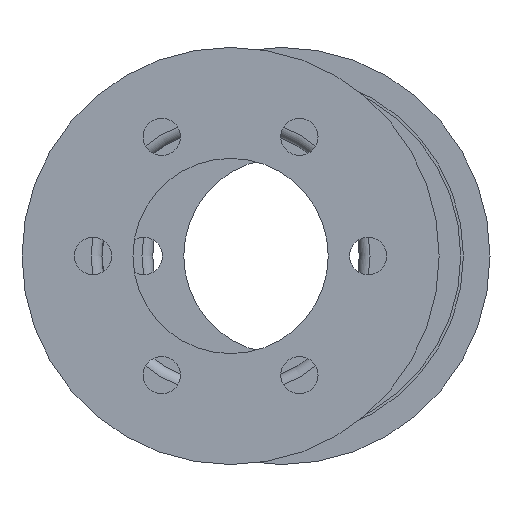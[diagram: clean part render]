
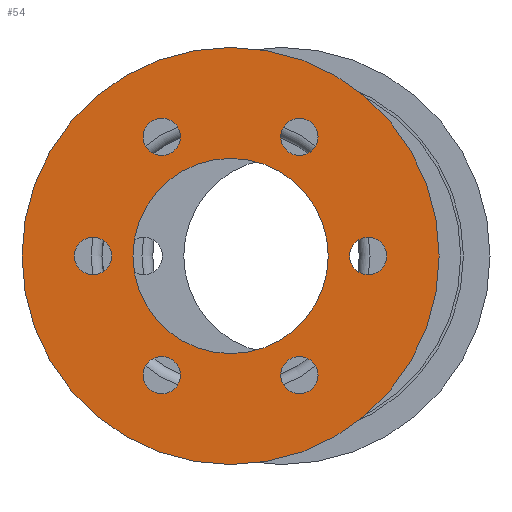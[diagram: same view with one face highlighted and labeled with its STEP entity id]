
A CAD part, left-side view. The second image highlights one B-rep face of the part: STEP entity #54.
In plain terms, the highlighted planar face has unit normal (-1, 0, 0).
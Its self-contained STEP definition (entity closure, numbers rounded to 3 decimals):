
#54 = ADVANCED_FACE( 'NONE', ( #101, #102, #103, #104, #105, #106, #107, #108 ), #109, .F. );
#101 = FACE_OUTER_BOUND( '', #171, .T. );
#102 = FACE_BOUND( '', #172, .T. );
#103 = FACE_BOUND( '', #173, .T. );
#104 = FACE_BOUND( '', #174, .T. );
#105 = FACE_BOUND( '', #175, .T. );
#106 = FACE_BOUND( '', #176, .T. );
#107 = FACE_BOUND( '', #177, .T. );
#108 = FACE_BOUND( '', #178, .T. );
#109 = PLANE( '', #179 );
#171 = EDGE_LOOP( '', ( #303 ) );
#172 = EDGE_LOOP( '', ( #304 ) );
#173 = EDGE_LOOP( '', ( #305 ) );
#174 = EDGE_LOOP( '', ( #306 ) );
#175 = EDGE_LOOP( '', ( #307 ) );
#176 = EDGE_LOOP( '', ( #308 ) );
#177 = EDGE_LOOP( '', ( #309 ) );
#178 = EDGE_LOOP( '', ( #310 ) );
#179 = AXIS2_PLACEMENT_3D( '', #311, #312, #313 );
#303 = ORIENTED_EDGE( '', *, *, #576, .T. );
#304 = ORIENTED_EDGE( '', *, *, #577, .F. );
#305 = ORIENTED_EDGE( '', *, *, #578, .F. );
#306 = ORIENTED_EDGE( '', *, *, #573, .F. );
#307 = ORIENTED_EDGE( '', *, *, #579, .F. );
#308 = ORIENTED_EDGE( '', *, *, #580, .F. );
#309 = ORIENTED_EDGE( '', *, *, #581, .F. );
#310 = ORIENTED_EDGE( '', *, *, #582, .F. );
#311 = CARTESIAN_POINT( '', ( 0., 11., 0. ) );
#312 = DIRECTION( '', ( 1., 0., 0. ) );
#313 = DIRECTION( '', ( 0., 1., 0. ) );
#573 = EDGE_CURVE( 'NONE', #803, #803, #804, .T. );
#576 = EDGE_CURVE( 'NONE', #808, #808, #809, .T. );
#577 = EDGE_CURVE( 'NONE', #810, #810, #811, .T. );
#578 = EDGE_CURVE( 'NONE', #812, #812, #813, .T. );
#579 = EDGE_CURVE( 'NONE', #814, #814, #815, .T. );
#580 = EDGE_CURVE( 'NONE', #816, #816, #817, .T. );
#581 = EDGE_CURVE( 'NONE', #818, #818, #819, .T. );
#582 = EDGE_CURVE( 'NONE', #820, #820, #821, .T. );
#803 = VERTEX_POINT( '', #1185 );
#804 = CIRCLE( '', #1186, 2.1 );
#808 = VERTEX_POINT( '', #1190 );
#809 = CIRCLE( '', #1191, 23.5 );
#810 = VERTEX_POINT( '', #1192 );
#811 = CIRCLE( '', #1193, 2.1 );
#812 = VERTEX_POINT( '', #1194 );
#813 = CIRCLE( '', #1195, 2.1 );
#814 = VERTEX_POINT( '', #1196 );
#815 = CIRCLE( '', #1197, 2.1 );
#816 = VERTEX_POINT( '', #1198 );
#817 = CIRCLE( '', #1199, 11. );
#818 = VERTEX_POINT( '', #1200 );
#819 = CIRCLE( '', #1201, 2.1 );
#820 = VERTEX_POINT( '', #1202 );
#821 = CIRCLE( '', #1203, 2.1 );
#1185 = CARTESIAN_POINT( '', ( 0., 7.75, -11.323 ) );
#1186 = AXIS2_PLACEMENT_3D( '', #1294, #1295, #1296 );
#1190 = CARTESIAN_POINT( '', ( 0., 0., 23.5 ) );
#1191 = AXIS2_PLACEMENT_3D( '', #1300, #1301, #1302 );
#1192 = CARTESIAN_POINT( '', ( 0., -7.75, 15.523 ) );
#1193 = AXIS2_PLACEMENT_3D( '', #1303, #1304, #1305 );
#1194 = CARTESIAN_POINT( '', ( 0., -7.75, -11.323 ) );
#1195 = AXIS2_PLACEMENT_3D( '', #1306, #1307, #1308 );
#1196 = CARTESIAN_POINT( '', ( 0., 15.5, 2.1 ) );
#1197 = AXIS2_PLACEMENT_3D( '', #1309, #1310, #1311 );
#1198 = CARTESIAN_POINT( '', ( 0., 0., 11. ) );
#1199 = AXIS2_PLACEMENT_3D( '', #1312, #1313, #1314 );
#1200 = CARTESIAN_POINT( '', ( 0., -15.5, 2.1 ) );
#1201 = AXIS2_PLACEMENT_3D( '', #1315, #1316, #1317 );
#1202 = CARTESIAN_POINT( '', ( 0., 7.75, 15.523 ) );
#1203 = AXIS2_PLACEMENT_3D( '', #1318, #1319, #1320 );
#1294 = CARTESIAN_POINT( '', ( 0., 7.75, -13.423 ) );
#1295 = DIRECTION( '', ( -1., 0., 0. ) );
#1296 = DIRECTION( '', ( 0., 0., 1. ) );
#1300 = CARTESIAN_POINT( '', ( 0., 0., 0. ) );
#1301 = DIRECTION( '', ( -1., 0., 0. ) );
#1302 = DIRECTION( '', ( 0., 0., 1. ) );
#1303 = CARTESIAN_POINT( '', ( 0., -7.75, 13.423 ) );
#1304 = DIRECTION( '', ( -1., 0., 0. ) );
#1305 = DIRECTION( '', ( 0., 0., 1. ) );
#1306 = CARTESIAN_POINT( '', ( 0., -7.75, -13.423 ) );
#1307 = DIRECTION( '', ( -1., 0., 0. ) );
#1308 = DIRECTION( '', ( 0., 0., 1. ) );
#1309 = CARTESIAN_POINT( '', ( 0., 15.5, 0. ) );
#1310 = DIRECTION( '', ( -1., 0., 0. ) );
#1311 = DIRECTION( '', ( 0., 0., 1. ) );
#1312 = CARTESIAN_POINT( '', ( 0., 0., 0. ) );
#1313 = DIRECTION( '', ( -1., 0., 0. ) );
#1314 = DIRECTION( '', ( 0., 0., 1. ) );
#1315 = CARTESIAN_POINT( '', ( 0., -15.5, 0. ) );
#1316 = DIRECTION( '', ( -1., 0., 0. ) );
#1317 = DIRECTION( '', ( 0., 0., 1. ) );
#1318 = CARTESIAN_POINT( '', ( 0., 7.75, 13.423 ) );
#1319 = DIRECTION( '', ( -1., 0., 0. ) );
#1320 = DIRECTION( '', ( 0., 0., 1. ) );
